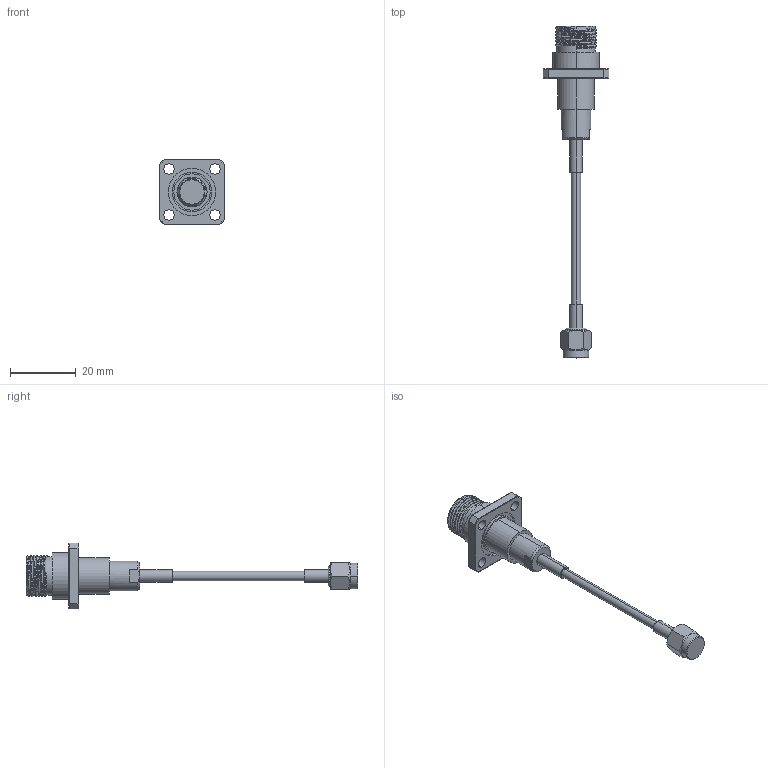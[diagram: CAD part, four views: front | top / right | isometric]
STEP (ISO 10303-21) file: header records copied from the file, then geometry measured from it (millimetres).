
FILE_DESCRIPTION (( 'STEP AP214' ), '1' );
FILE_NAME ('Poseidon Bulkhead.STEP', '2017-04-20T00:14:32', ( '' ), ( '' ), 'SwSTEP 2.0', 'SolidWorks 2015', '' );
FILE_SCHEMA (( 'AUTOMOTIVE_DESIGN' ));
Length unit declared in the file: millimetre
Products named in the file (8): Poseidon Bulkhead; Subelectra - Coax cable; SMA Plug Straight; Subelectra - Coax, Flange
Assembly tree (4 placements, depth 2):
  Poseidon Bulkhead
    Subelectra - Coax, Flange
  Subelectra - Coax cable
  Poseidon Bulkhead
    Subelectra - Coax, Flange
    Subelectra - Coax cable
    SMA Plug Straight
  SMA Plug Straight
Bounding box: 20 x 100.9 x 20 mm (x, y, z)
Volume: 4317.4 mm3; surface area: 3737.2 mm2
Topology: 2 solids, 4 shells, 131 faces, 301 edges, 191 vertices
Faces by surface type: plane 55, cylinder 52, cone 20, bspline 4
Entity records: 5499 total; most frequent: CARTESIAN_POINT 1882, DIRECTION 632, ORIENTED_EDGE 596, EDGE_CURVE 300, AXIS2_PLACEMENT_3D 246, VERTEX_POINT 189, EDGE_LOOP 153, LINE 140
